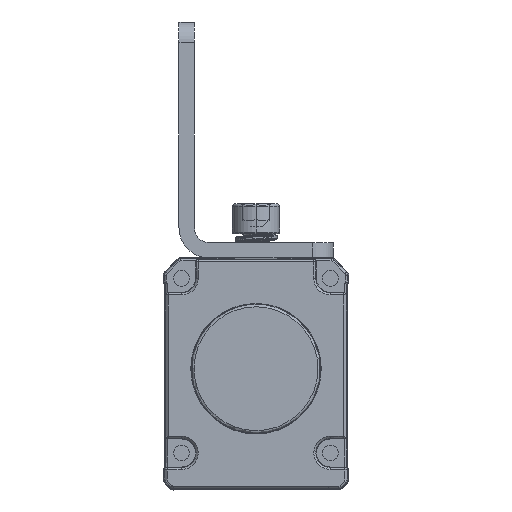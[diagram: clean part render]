
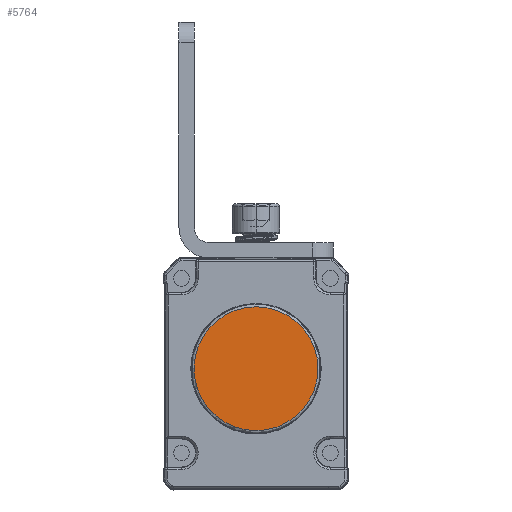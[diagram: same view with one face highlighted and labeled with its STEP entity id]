
A CAD part, front view. The second image highlights one B-rep face of the part: STEP entity #5764.
In plain terms, the highlighted planar face has unit normal (0, -1, 0) as drawn and (0, 1, 0) by its records, which use the part's own axes.
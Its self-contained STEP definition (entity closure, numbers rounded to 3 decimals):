
#3117=CARTESIAN_POINT('',(298.137,272.441,-93.947));
#3118=DIRECTION('',(0.,1.,0.));
#3119=DIRECTION('',(-1.,0.,-0.007));
#3120=AXIS2_PLACEMENT_3D('',#3117,#3118,#3119);
#3122=CARTESIAN_POINT('',(298.137,272.441,-93.947));
#3123=DIRECTION('',(0.,1.,0.));
#3124=DIRECTION('',(1.,0.,-0.001));
#3125=AXIS2_PLACEMENT_3D('',#3122,#3123,#3124);
#3127=CARTESIAN_POINT('',(298.137,272.441,-93.947));
#3128=DIRECTION('',(0.,1.,0.));
#3129=DIRECTION('',(1.,0.,0.007));
#3130=AXIS2_PLACEMENT_3D('',#3127,#3128,#3129);
#3132=CARTESIAN_POINT('',(298.137,272.441,-93.947));
#3133=DIRECTION('',(0.,1.,0.));
#3134=DIRECTION('',(-1.,0.,0.001));
#3135=AXIS2_PLACEMENT_3D('',#3132,#3133,#3134);
#3215=CARTESIAN_POINT('',(286.082,272.441,-94.027));
#3216=CARTESIAN_POINT('',(286.082,272.441,-93.939));
#3217=VERTEX_POINT('',#3215);
#3218=VERTEX_POINT('',#3216);
#3282=CARTESIAN_POINT('',(310.193,272.441,-93.955));
#3283=VERTEX_POINT('',#3282);
#3385=CARTESIAN_POINT('',(310.193,272.441,-93.867));
#3386=VERTEX_POINT('',#3385);
#5753=CARTESIAN_POINT('',(298.533,272.441,-94.753));
#5754=DIRECTION('',(0.,1.,0.));
#5755=DIRECTION('',(1.,0.,-0.001));
#5756=AXIS2_PLACEMENT_3D('',#5753,#5754,#5755);
#5757=PLANE('',#5756);
#5758=ORIENTED_EDGE('',*,*,#5730,.F.);
#5759=ORIENTED_EDGE('',*,*,#5744,.F.);
#5760=ORIENTED_EDGE('',*,*,#5742,.F.);
#5761=ORIENTED_EDGE('',*,*,#5732,.F.);
#5762=EDGE_LOOP('',(#5758,#5759,#5760,#5761));
#5763=FACE_OUTER_BOUND('',#5762,.F.);
#5764=ADVANCED_FACE('',(#5763),#5757,.T.);
#3121=CIRCLE('',#3120,12.056);
#3126=CIRCLE('',#3125,12.056);
#3131=CIRCLE('',#3130,12.056);
#3136=CIRCLE('',#3135,12.056);
#5730=EDGE_CURVE('',#3217,#3218,#3121,.T.);
#5732=EDGE_CURVE('',#3218,#3386,#3136,.T.);
#5742=EDGE_CURVE('',#3386,#3283,#3131,.T.);
#5744=EDGE_CURVE('',#3283,#3217,#3126,.T.);
